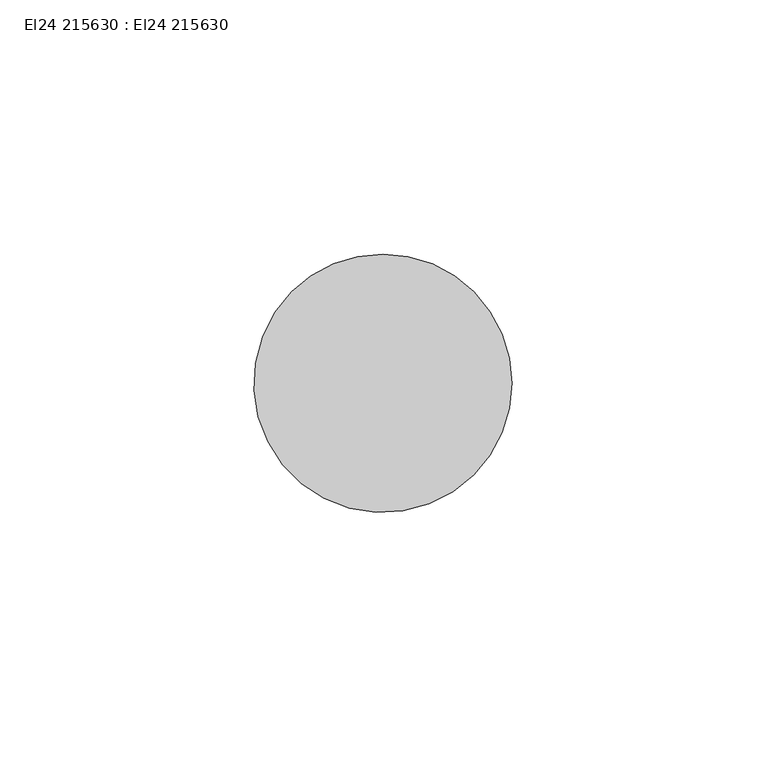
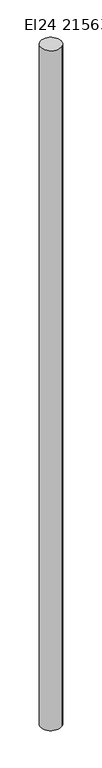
"""IFC4 building model written with IfcOpenShell, lengths in millimetres: cable carrier segment geometry, El24 215630 : El24 215630."""

from ifc_helpers import new_model, si_unit, point, frame, frame_2d, origin, place, context, project, spatial, circle_curve, trimmed, segment, composite_curve, outline, extrude, source, transform, mapped, element, save


def el24_215630_el24_215630_7008dc0d(model_context):
    return source(origin(), model_context, "Body", "SweptSolid", [
        extrude(outline(composite_curve([segment(trimmed(circle_curve(frame_2d((24722.3012513, 13222.0987534)), 25.4), [point((24740.2617635, 13204.1382411))], [point((24704.3407391, 13240.0592656))], False, "CARTESIAN"), True, "CONTINUOUS"), segment(trimmed(circle_curve(frame_2d((24722.3012513, 13222.0987534)), 25.4), [point((24704.3407391, 13240.0592656))], [point((24740.2617635, 13204.1382411))], False, "CARTESIAN"), True, "CONTINUOUS")], self_intersect=False)), frame((0.0, 0.0, 1200.0), z_axis=(0.0, 0.0, 1.0), x_axis=(1.0, 0.0, 0.0)), (0.0, 0.0, 1.0), 1800.0),
    ])


if __name__ == "__main__":
    model = new_model("IFC4")
    model_context = context("Model", 3, world=origin())
    ifc_project = project(units=[si_unit("LENGTHUNIT", "METRE", prefix="MILLI")], contexts=[model_context])
    site = spatial("IfcSite", under=ifc_project)
    building = spatial("IfcBuilding", under=site)
    placement = place(None, origin())
    el24_215630_el24_215630_shape = el24_215630_el24_215630_7008dc0d(model_context)
    element("IfcCableCarrierSegment", 1, ObjectType="El24 215630 : El24 215630", at=placement, inside=building, context=model_context, shape_type="MappedRepresentation", body=[
        mapped(el24_215630_el24_215630_shape, transform((0.0, 0.0, 0.0), x_axis=(1.0, 0.0, 0.0), y_axis=(0.0, 1.0, 0.0), z_axis=(0.0, 0.0, 1.0))),
    ])
    save(model, "model.ifc")
